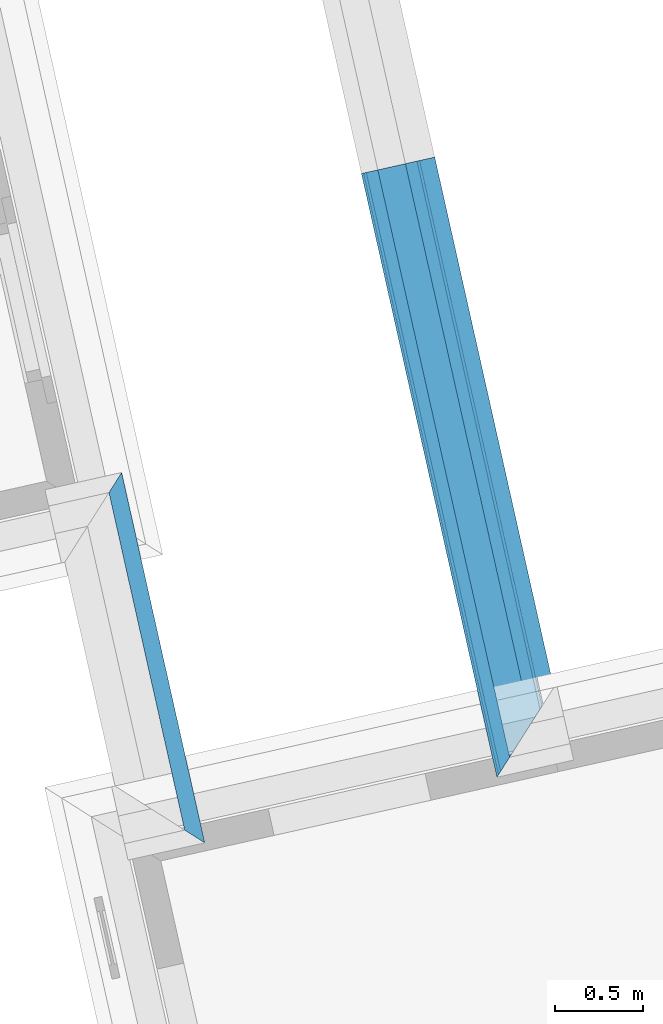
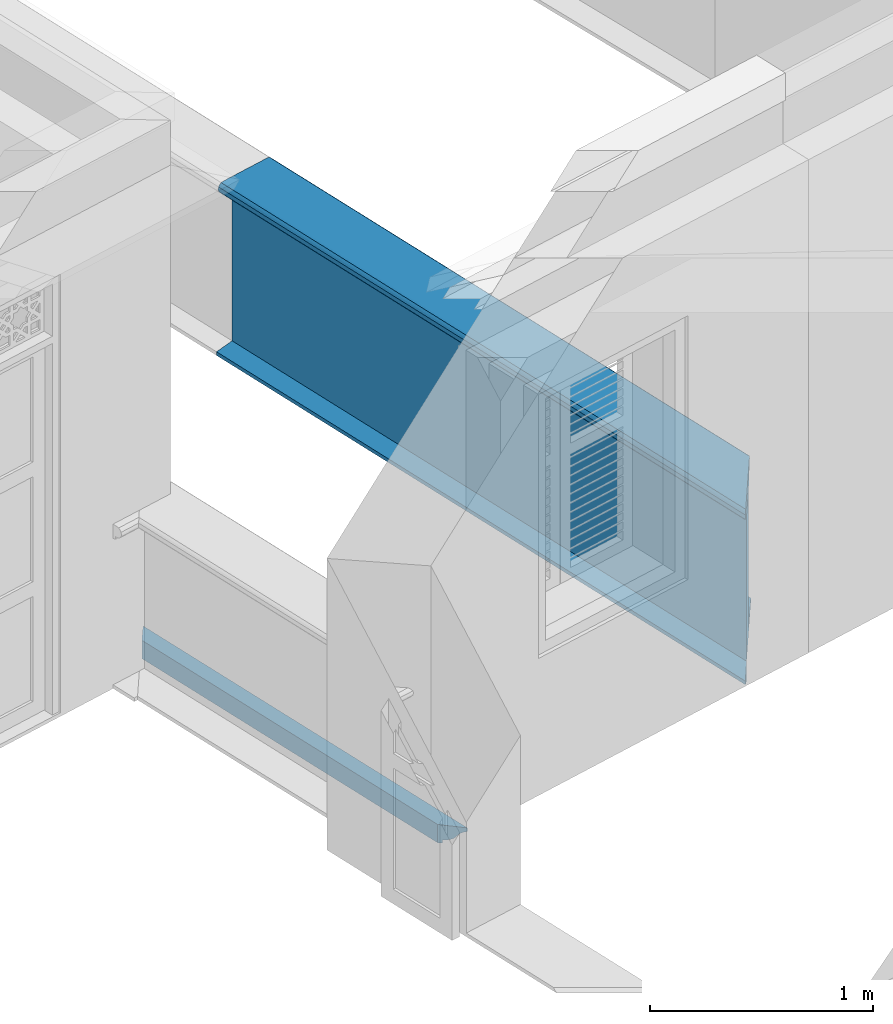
# One storey, part 5 of 15: 4 walls.
"""IFC4 building model written with IfcOpenShell, lengths in metres."""

from ifc_helpers import new_model, si_unit, frame, origin_with_axes, place, context, subcontext, project, spatial, polyline, outline, extrude, clip, halfspace, material_profile, profile_set, profile_usage, type_object, element, save


model = new_model("IFC4")

# Units and contexts
model_context = context("Model", 3, world=origin_with_axes())
body_context = subcontext(model_context, "Body", "Model", "MODEL_VIEW")
ifc_project = project(units=[si_unit("PLANEANGLEUNIT", "RADIAN"), si_unit("MASSUNIT", "GRAM", prefix="KILO"), si_unit("FORCEUNIT", "NEWTON", prefix="KILO"), si_unit("LENGTHUNIT", "METRE"), si_unit("AREAUNIT", "SQUARE_METRE"), si_unit("VOLUMEUNIT", "CUBIC_METRE")], contexts=[model_context, model_context])

# Site, building, storey
site_placement = place(None, origin_with_axes())
site = spatial("IfcSite", under=ifc_project, at=site_placement, Name="Site plot-10", CompositionType="ELEMENT")
building_placement = place(None, origin_with_axes())
building = spatial("IfcBuilding", under=site, at=building_placement, Name="Building plot-10", CompositionType="ELEMENT")
storey_placement = place(None, frame((0.0, 0.0, 2.7), z_axis=(0.0, 0.0, 1.0), x_axis=(1.0, 0.0, 0.0)))
storey = spatial("IfcBuildingStorey", under=building, at=storey_placement, Name="plot-10 1", CompositionType="ELEMENT", Elevation=2.7)

# Walls
ifc_material_profile_1 = material_profile(None, outline(polyline([(0.25, -0.1), (0.265, -0.1), (0.265, -0.085), (0.278, -0.084), (0.289, -0.081), (0.301, -0.074), (0.309, -0.065), (0.315, -0.055), (0.324, -0.044), (0.334, -0.038), (0.345, -0.035), (0.345, -0.015), (0.25, 0.0), (0.25, -0.1)])))
ifc_profile_set_1 = profile_set([ifc_material_profile_1])
ifc_profile_usage_1 = profile_usage(ifc_profile_set_1)
wall_type_1 = type_object("IfcWallType", Name="parapet internal_2", PredefinedType="PARAPET", material=ifc_profile_set_1)
wall_1_placement = place(storey_placement, frame((-20.7319365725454, 13.5503178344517, 0.0), z_axis=(0.218925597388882, -0.975741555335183, 0.0), x_axis=(0.975741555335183, 0.218925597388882, 0.0)))
element("IfcWall", 1, at=wall_1_placement, inside=storey, type_object=wall_type_1, material=ifc_profile_usage_1, Name="parapet internal_2", context=body_context, shape_type="Clipping", body=[
    clip(clip(extrude(outline(polyline([(0.25, -0.1), (0.265, -0.1), (0.265, -0.085), (0.278, -0.084), (0.289, -0.081), (0.301, -0.074), (0.309, -0.065), (0.315, -0.055), (0.324, -0.044), (0.334, -0.038), (0.345, -0.035), (0.345, -0.015), (0.25, 0.0), (0.25, -0.1)])), origin_with_axes(), (0.0, 0.0, 1.0), 3.45804371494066), halfspace(frame((0.0, 0.0, 2.45804371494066), z_axis=(0.707106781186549, 0.0, -0.707106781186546), x_axis=(0.0, 1.0, 0.0)), True)), halfspace(frame((0.0, 0.0, 1.0), z_axis=(-0.707106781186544, 0.0, -0.707106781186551), x_axis=(0.0, 1.0, 0.0)), False)),
])
ifc_material_profile_2 = material_profile(None, outline(polyline([(0.25, 0.0), (0.25, 0.795), (0.09, 0.795), (0.09, 0.02), (-0.08, 0.02), (-0.08, 0.0), (0.25, 0.0)])))
ifc_profile_set_2 = profile_set([ifc_material_profile_2])
ifc_profile_usage_2 = profile_usage(ifc_profile_set_2)
wall_type_2 = type_object("IfcWallType", Name="parapet internal_0", PredefinedType="PARAPET", material=ifc_profile_set_2)
wall_2_placement = place(storey_placement, frame((-17.6483543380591, 10.6981602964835, 0.0), z_axis=(-0.218925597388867, 0.975741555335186, 0.0), x_axis=(-0.975741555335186, -0.218925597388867, 0.0)))
element("IfcWall", 2, at=wall_2_placement, inside=storey, type_object=wall_type_2, material=ifc_profile_usage_2, Name="parapet internal_0", context=body_context, shape_type="Clipping", body=[
    clip(clip(extrude(outline(polyline([(0.25, 0.0), (0.25, 0.795), (0.09, 0.795), (0.09, 0.02), (-0.08, 0.02), (-0.08, 0.0), (0.25, 0.0)])), origin_with_axes(), (0.0, 0.0, 1.0), 5.15644150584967), halfspace(frame((0.0, 0.0, 4.15644150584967), z_axis=(2.43636742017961e-14, 0.0, -1.0), x_axis=(0.0, 1.0, 0.0)), True)), halfspace(frame((0.0, 0.0, 1.0), z_axis=(-0.707106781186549, 0.0, -0.707106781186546), x_axis=(0.0, 1.0, 0.0)), False)),
])
ifc_material_profile_3 = material_profile(None, outline(polyline([(0.265, 0.795), (0.268, 0.807), (0.274, 0.816), (0.283, 0.822), (0.295, 0.825), (0.295, 0.84), (0.305, 0.84), (0.317, 0.842), (0.326, 0.849), (0.333, 0.858), (0.335, 0.87), (0.333, 0.882), (0.326, 0.891), (0.317, 0.898), (0.305, 0.9), (0.035, 0.9), (0.023, 0.898), (0.014, 0.891), (0.007, 0.882), (0.005, 0.87), (0.007, 0.858), (0.014, 0.849), (0.023, 0.842), (0.035, 0.84), (0.045, 0.84), (0.045, 0.825), (0.057, 0.822), (0.066, 0.816), (0.072, 0.807), (0.075, 0.795), (0.265, 0.795)])))
ifc_profile_set_3 = profile_set([ifc_material_profile_3])
ifc_profile_usage_3 = profile_usage(ifc_profile_set_3)
wall_type_3 = type_object("IfcWallType", Name="parapet internal_1", PredefinedType="PARAPET", material=ifc_profile_set_3)
wall_3_placement = place(storey_placement, frame((-17.6483543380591, 10.6981602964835, 0.0), z_axis=(-0.218925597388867, 0.975741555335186, 0.0), x_axis=(-0.975741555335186, -0.218925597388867, 0.0)))
element("IfcWall", 3, at=wall_3_placement, inside=storey, type_object=wall_type_3, material=ifc_profile_usage_3, Name="parapet internal_1", context=body_context, shape_type="Clipping", body=[
    clip(clip(extrude(outline(polyline([(0.265, 0.795), (0.268, 0.807), (0.274, 0.816), (0.283, 0.822), (0.295, 0.825), (0.295, 0.84), (0.305, 0.84), (0.317, 0.842), (0.326, 0.849), (0.333, 0.858), (0.335, 0.87), (0.333, 0.882), (0.326, 0.891), (0.317, 0.898), (0.305, 0.9), (0.035, 0.9), (0.023, 0.898), (0.014, 0.891), (0.007, 0.882), (0.005, 0.87), (0.007, 0.858), (0.014, 0.849), (0.023, 0.842), (0.035, 0.84), (0.045, 0.84), (0.045, 0.825), (0.057, 0.822), (0.066, 0.816), (0.072, 0.807), (0.075, 0.795), (0.265, 0.795)])), origin_with_axes(), (0.0, 0.0, 1.0), 5.15644150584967), halfspace(frame((0.0, 0.0, 4.15644150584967), z_axis=(2.43636742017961e-14, 0.0, -1.0), x_axis=(0.0, 1.0, 0.0)), True)), halfspace(frame((0.0, 0.0, 1.0), z_axis=(-0.707106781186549, 0.0, -0.707106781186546), x_axis=(0.0, 1.0, 0.0)), False)),
])
ifc_material_profile_4 = material_profile(None, outline(polyline([(0.25, -0.1), (0.265, -0.1), (0.265, -0.085), (0.278, -0.084), (0.289, -0.081), (0.301, -0.074), (0.309, -0.065), (0.315, -0.055), (0.324, -0.044), (0.334, -0.038), (0.345, -0.035), (0.345, -0.015), (0.25, 0.0), (0.25, -0.1)])))
ifc_profile_set_4 = profile_set([ifc_material_profile_4])
ifc_profile_usage_4 = profile_usage(ifc_profile_set_4)
wall_type_4 = type_object("IfcWallType", Name="parapet internal_2", PredefinedType="PARAPET", material=ifc_profile_set_4)
wall_4_placement = place(storey_placement, frame((-17.6483543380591, 10.6981602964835, 0.0), z_axis=(-0.218925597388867, 0.975741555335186, 0.0), x_axis=(-0.975741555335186, -0.218925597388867, 0.0)))
element("IfcWall", 4, at=wall_4_placement, inside=storey, type_object=wall_type_4, material=ifc_profile_usage_4, Name="parapet internal_2", context=body_context, shape_type="Clipping", body=[
    clip(clip(extrude(outline(polyline([(0.25, -0.1), (0.265, -0.1), (0.265, -0.085), (0.278, -0.084), (0.289, -0.081), (0.301, -0.074), (0.309, -0.065), (0.315, -0.055), (0.324, -0.044), (0.334, -0.038), (0.345, -0.035), (0.345, -0.015), (0.25, 0.0), (0.25, -0.1)])), origin_with_axes(), (0.0, 0.0, 1.0), 5.15644150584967), halfspace(frame((0.0, 0.0, 4.15644150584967), z_axis=(2.43636742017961e-14, 0.0, -1.0), x_axis=(0.0, 1.0, 0.0)), True)), halfspace(frame((0.0, 0.0, 1.0), z_axis=(-0.707106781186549, 0.0, -0.707106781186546), x_axis=(0.0, 1.0, 0.0)), False)),
])

save(model, "model.ifc")
